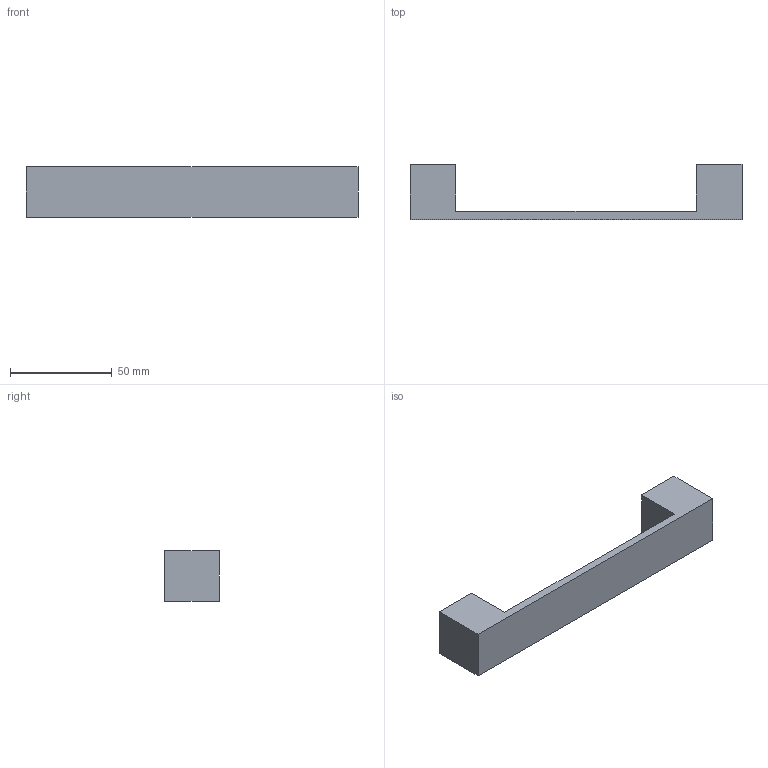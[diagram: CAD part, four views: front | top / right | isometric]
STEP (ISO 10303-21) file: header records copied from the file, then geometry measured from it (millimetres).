
FILE_DESCRIPTION( ( 'STEP AP214' ), '1' );
FILE_NAME( 'D:/Yug/2020/ProDecor_2020/Analysis_ProDecor_2020/QC/9268262.stp', '2020-11-06T06:08:45', ( '' ), ( '' ), ' ', 'PARTsolutions', ' ' );
FILE_SCHEMA( ( 'AUTOMOTIVE_DESIGN { 1 0 10303 214 1 1 1 1 }' ) );
Length unit declared in the file: millimetre
Products named in the file (1): _9268262
Bounding box: 163 x 27 x 25 mm (x, y, z)
Volume: 38650.2 mm3; surface area: 14687.4 mm2
Topology: 1 solids, 1 shells, 19 faces, 45 edges, 30 vertices
Faces by surface type: plane 13, cylinder 6
Full cylindrical faces by diameter (mm): 4 x2
Entity records: 709 total; most frequent: DIRECTION 95, CARTESIAN_POINT 93, ORIENTED_EDGE 86, EDGE_CURVE 43, AXIS2_PLACEMENT_3D 32, LINE 31, VECTOR 31, VERTEX_POINT 30
